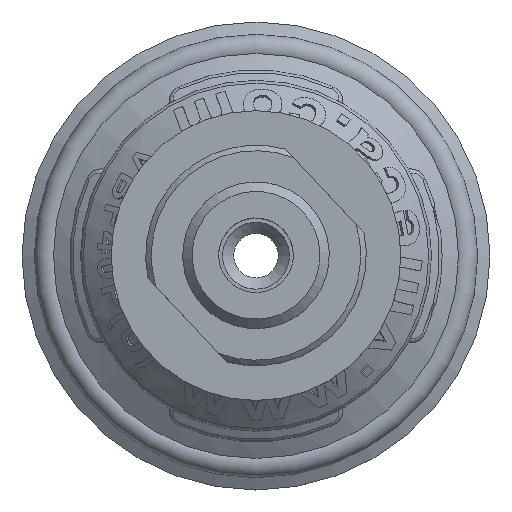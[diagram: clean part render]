
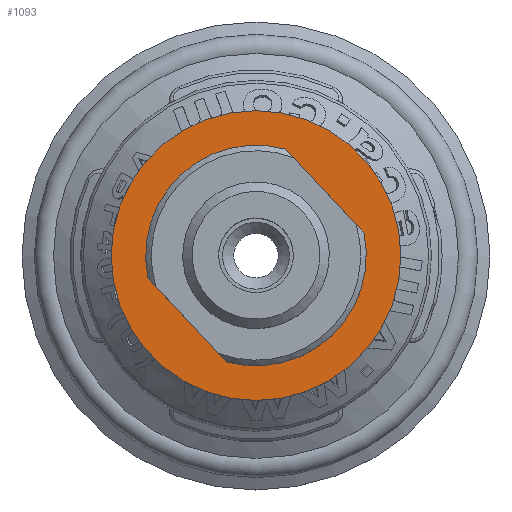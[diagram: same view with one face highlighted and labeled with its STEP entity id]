
A CAD part, top view. The second image highlights one B-rep face of the part: STEP entity #1093.
In plain terms, the highlighted planar face has unit normal (0, 0, 1).
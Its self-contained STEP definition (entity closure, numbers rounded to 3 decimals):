
#1093 = ADVANCED_FACE( '', ( #2394, #2395 ), #2396, .T. );
#2394 = FACE_BOUND( '', #8655, .T. );
#2395 = FACE_OUTER_BOUND( '', #8656, .T. );
#2396 = PLANE( '', #8657 );
#8655 = EDGE_LOOP( '', ( #13412, #13413, #13414, #13415 ) );
#8656 = EDGE_LOOP( '', ( #13416 ) );
#8657 = AXIS2_PLACEMENT_3D( '', #13417, #13418, #13419 );
#13412 = ORIENTED_EDGE( '', *, *, #15300, .F. );
#13413 = ORIENTED_EDGE( '', *, *, #15944, .F. );
#13414 = ORIENTED_EDGE( '', *, *, #14999, .T. );
#13415 = ORIENTED_EDGE( '', *, *, #15804, .F. );
#13416 = ORIENTED_EDGE( '', *, *, #14927, .T. );
#13417 = CARTESIAN_POINT( '', ( 11.5, 0., 11.5 ) );
#13418 = DIRECTION( '', ( 0., 0., 1. ) );
#13419 = DIRECTION( '', ( 1., 0., 0. ) );
#14927 = EDGE_CURVE( '', #16737, #16737, #16738, .T. );
#14999 = EDGE_CURVE( '', #16857, #16858, #16859, .T. );
#15300 = EDGE_CURVE( '', #17342, #17345, #17346, .T. );
#15804 = EDGE_CURVE( '', #17345, #16858, #18082, .T. );
#15944 = EDGE_CURVE( '', #16857, #17342, #18259, .T. );
#16737 = VERTEX_POINT( '', #20075 );
#16738 = CIRCLE( '', #20076, 13. );
#16857 = VERTEX_POINT( '', #20359 );
#16858 = VERTEX_POINT( '', #20360 );
#16859 = LINE( '', #20361, #20362 );
#17342 = VERTEX_POINT( '', #22000 );
#17345 = VERTEX_POINT( '', #22004 );
#17346 = LINE( '', #22005, #22006 );
#18082 = CIRCLE( '', #24761, 9.9 );
#18259 = CIRCLE( '', #25347, 9.9 );
#20075 = CARTESIAN_POINT( '', ( 13., 0., 11.5 ) );
#20076 = AXIS2_PLACEMENT_3D( '', #26202, #26203, #26204 );
#20359 = CARTESIAN_POINT( '', ( -2.648, -9.539, 11.5 ) );
#20360 = CARTESIAN_POINT( '', ( -9.695, -2.005, 11.5 ) );
#20361 = CARTESIAN_POINT( '', ( -0.806, -11.509, 11.5 ) );
#20362 = VECTOR( '', #26281, 1000. );
#22000 = CARTESIAN_POINT( '', ( 9.695, 2.005, 11.5 ) );
#22004 = CARTESIAN_POINT( '', ( 2.648, 9.539, 11.5 ) );
#22005 = CARTESIAN_POINT( '', ( 11.537, 0.035, 11.5 ) );
#22006 = VECTOR( '', #26507, 1000. );
#24761 = AXIS2_PLACEMENT_3D( '', #26860, #26861, #26862 );
#25347 = AXIS2_PLACEMENT_3D( '', #26975, #26976, #26977 );
#26202 = CARTESIAN_POINT( '', ( 0., 0., 11.5 ) );
#26203 = DIRECTION( '', ( 0., 0., 1. ) );
#26204 = DIRECTION( '', ( 1., 0., 0. ) );
#26281 = DIRECTION( '', ( -0.683, 0.73, 0. ) );
#26507 = DIRECTION( '', ( -0.683, 0.73, 0. ) );
#26860 = CARTESIAN_POINT( '', ( 0., 0., 11.5 ) );
#26861 = DIRECTION( '', ( 0., 0., 1. ) );
#26862 = DIRECTION( '', ( 1., 0., 0. ) );
#26975 = CARTESIAN_POINT( '', ( 0., 0., 11.5 ) );
#26976 = DIRECTION( '', ( 0., 0., 1. ) );
#26977 = DIRECTION( '', ( 1., 0., 0. ) );
